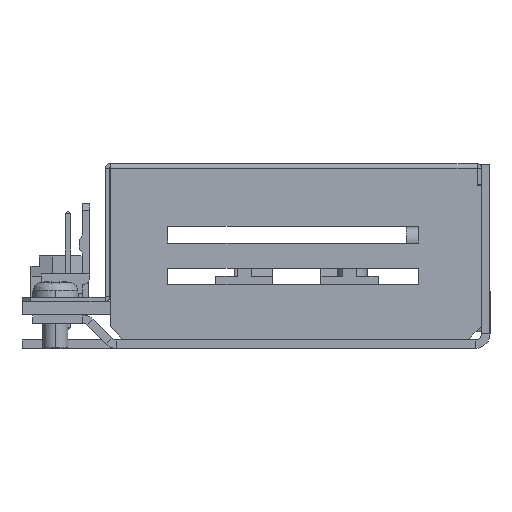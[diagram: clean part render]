
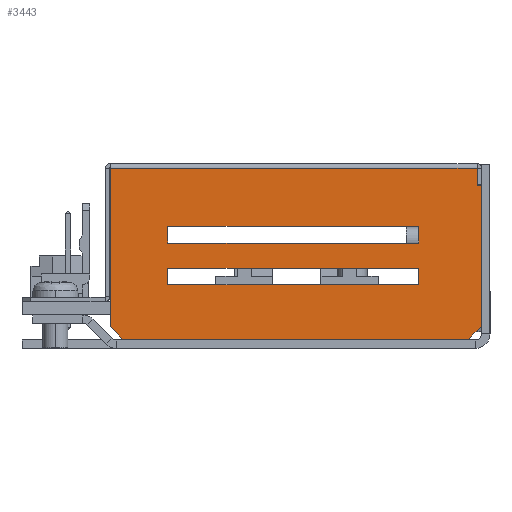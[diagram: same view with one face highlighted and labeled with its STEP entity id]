
A CAD part, left-side view. The second image highlights one B-rep face of the part: STEP entity #3443.
In plain terms, the highlighted planar face has unit normal (-1, 0, 0).
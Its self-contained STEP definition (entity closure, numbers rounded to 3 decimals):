
#217 = FACE_BOUND ( 'NONE', #21162, .T. ) ;
#218 = FACE_OUTER_BOUND ( 'NONE', #21498, .T. ) ;
#221 = FACE_BOUND ( 'NONE', #21458, .T. ) ;
#3443 = ADVANCED_FACE ( 'NONE', ( #217, #221, #218 ), #15162, .F. ) ;
#6703 = ORIENTED_EDGE ( 'NONE', *, *, #26382, .T. ) ;
#6750 = ORIENTED_EDGE ( 'NONE', *, *, #26294, .F. ) ;
#7088 = ORIENTED_EDGE ( 'NONE', *, *, #26590, .T. ) ;
#7243 = ORIENTED_EDGE ( 'NONE', *, *, #26050, .T. ) ;
#7385 = ORIENTED_EDGE ( 'NONE', *, *, #26375, .F. ) ;
#7477 = ORIENTED_EDGE ( 'NONE', *, *, #25978, .F. ) ;
#7611 = VERTEX_POINT ( 'NONE', #13526 ) ;
#7864 = VERTEX_POINT ( 'NONE', #13641 ) ;
#7872 = VERTEX_POINT ( 'NONE', #13640 ) ;
#7915 = VERTEX_POINT ( 'NONE', #11288 ) ;
#7987 = VERTEX_POINT ( 'NONE', #11323 ) ;
#8485 = VERTEX_POINT ( 'NONE', #11502 ) ;
#8513 = VERTEX_POINT ( 'NONE', #11521 ) ;
#8520 = VERTEX_POINT ( 'NONE', #11522 ) ;
#8626 = VERTEX_POINT ( 'NONE', #11590 ) ;
#8631 = VERTEX_POINT ( 'NONE', #11589 ) ;
#8667 = VERTEX_POINT ( 'NONE', #11616 ) ;
#8726 = VERTEX_POINT ( 'NONE', #11646 ) ;
#9016 = AXIS2_PLACEMENT_3D ( 'NONE', #15168, #15169, #15170 ) ;
#10550 = ORIENTED_EDGE ( 'NONE', *, *, #26243, .F. ) ;
#10591 = ORIENTED_EDGE ( 'NONE', *, *, #26349, .F. ) ;
#10667 = ORIENTED_EDGE ( 'NONE', *, *, #26401, .F. ) ;
#10707 = ORIENTED_EDGE ( 'NONE', *, *, #26030, .F. ) ;
#10723 = ORIENTED_EDGE ( 'NONE', *, *, #26091, .T. ) ;
#10791 = ORIENTED_EDGE ( 'NONE', *, *, #26404, .F. ) ;
#10798 = ORIENTED_EDGE ( 'NONE', *, *, #26544, .F. ) ;
#10819 = ORIENTED_EDGE ( 'NONE', *, *, #26383, .T. ) ;
#10820 = ORIENTED_EDGE ( 'NONE', *, *, #26574, .T. ) ;
#10826 = ORIENTED_EDGE ( 'NONE', *, *, #26519, .F. ) ;
#11288 = CARTESIAN_POINT ( 'NONE',  ( -34.942, -27.033, 1.6 ) ) ;
#11323 = CARTESIAN_POINT ( 'NONE',  ( -34.942, -34.033, 13.5 ) ) ;
#11502 = CARTESIAN_POINT ( 'NONE',  ( -34.942, -27.033, 8.6 ) ) ;
#11521 = CARTESIAN_POINT ( 'NONE',  ( -34.942, -33.033, -4.9 ) ) ;
#11522 = CARTESIAN_POINT ( 'NONE',  ( -34.942, -34.033, 15.55 ) ) ;
#11589 = CARTESIAN_POINT ( 'NONE',  ( -34.942, -34.533, 13.5 ) ) ;
#11590 = CARTESIAN_POINT ( 'NONE',  ( -34.942, 9.867, 15.55 ) ) ;
#11616 = CARTESIAN_POINT ( 'NONE',  ( -34.942, 8.367, -4.9 ) ) ;
#11646 = CARTESIAN_POINT ( 'NONE',  ( -34.942, 2.967, 6.6 ) ) ;
#12043 = LINE ( 'NONE', #24612, #12050 ) ;
#12050 = VECTOR ( 'NONE', #24623, 1000. ) ;
#12137 = LINE ( 'NONE', #20397, #12143 ) ;
#12143 = VECTOR ( 'NONE', #20394, 1000. ) ;
#12167 = LINE ( 'NONE', #20441, #12179 ) ;
#12179 = VECTOR ( 'NONE', #20432, 1000. ) ;
#12248 = LINE ( 'NONE', #20540, #12251 ) ;
#12251 = VECTOR ( 'NONE', #20541, 1000. ) ;
#12513 = LINE ( 'NONE', #21170, #12517 ) ;
#12517 = VECTOR ( 'NONE', #21183, 1000. ) ;
#12606 = LINE ( 'NONE', #21417, #12609 ) ;
#12609 = VECTOR ( 'NONE', #21420, 1000. ) ;
#12712 = LINE ( 'NONE', #21602, #12715 ) ;
#12715 = VECTOR ( 'NONE', #21604, 1000. ) ;
#12757 = LINE ( 'NONE', #21662, #12760 ) ;
#12760 = VECTOR ( 'NONE', #21663, 1000. ) ;
#12771 = LINE ( 'NONE', #21676, #12774 ) ;
#12773 = LINE ( 'NONE', #21678, #12776 ) ;
#12774 = VECTOR ( 'NONE', #21677, 1000. ) ;
#12776 = VECTOR ( 'NONE', #21679, 1000. ) ;
#12789 = LINE ( 'NONE', #24942, #12805 ) ;
#12805 = VECTOR ( 'NONE', #24966, 1000. ) ;
#12808 = LINE ( 'NONE', #24978, #12811 ) ;
#12811 = VECTOR ( 'NONE', #24980, 1000. ) ;
#13526 = CARTESIAN_POINT ( 'NONE',  ( -34.942, 2.967, 3.6 ) ) ;
#13640 = CARTESIAN_POINT ( 'NONE',  ( -34.942, -27.033, 3.6 ) ) ;
#13641 = CARTESIAN_POINT ( 'NONE',  ( -34.942, 2.967, 8.6 ) ) ;
#15162 = PLANE ( 'NONE',  #9016 ) ;
#15168 = CARTESIAN_POINT ( 'NONE',  ( -34.942, 9.867, 15.6 ) ) ;
#15169 = DIRECTION ( 'NONE',  ( 1., 0., 0. ) ) ;
#15170 = DIRECTION ( 'NONE',  ( 0., -1., 0. ) ) ;
#20394 = DIRECTION ( 'NONE',  ( 0., 0., 1. ) ) ;
#20397 = CARTESIAN_POINT ( 'NONE',  ( -34.942, -27.033, 1.6 ) ) ;
#20432 = DIRECTION ( 'NONE',  ( 0., 1., 0. ) ) ;
#20441 = CARTESIAN_POINT ( 'NONE',  ( -34.942, -34.533, 13.5 ) ) ;
#20540 = CARTESIAN_POINT ( 'NONE',  ( -34.942, 9.867, -4.9 ) ) ;
#20541 = DIRECTION ( 'NONE',  ( 0., -1., 0. ) ) ;
#21162 = EDGE_LOOP ( 'NONE', ( #10798, #10550, #10591, #7477 ) ) ;
#21170 = CARTESIAN_POINT ( 'NONE',  ( -34.942, -27.033, 6.6 ) ) ;
#21183 = DIRECTION ( 'NONE',  ( 0., 0., 1. ) ) ;
#21417 = CARTESIAN_POINT ( 'NONE',  ( -34.942, -34.033, 15.55 ) ) ;
#21420 = DIRECTION ( 'NONE',  ( 0., -1., 0. ) ) ;
#21458 = EDGE_LOOP ( 'NONE', ( #10791, #10707, #10826, #10667 ) ) ;
#21498 = EDGE_LOOP ( 'NONE', ( #10723, #10819, #7385, #7243, #10820, #6750, #7088, #6703 ) ) ;
#21602 = CARTESIAN_POINT ( 'NONE',  ( -34.942, -27.033, 6.6 ) ) ;
#21604 = DIRECTION ( 'NONE',  ( 0., -1., 0. ) ) ;
#21662 = CARTESIAN_POINT ( 'NONE',  ( -34.942, -34.533, 13.5 ) ) ;
#21663 = DIRECTION ( 'NONE',  ( 0., 0., -1. ) ) ;
#21676 = CARTESIAN_POINT ( 'NONE',  ( -34.942, 8.367, -4.9 ) ) ;
#21677 = DIRECTION ( 'NONE',  ( 0., -0.707, -0.707 ) ) ;
#21678 = CARTESIAN_POINT ( 'NONE',  ( -34.942, -34.533, -3.4 ) ) ;
#21679 = DIRECTION ( 'NONE',  ( 0., -0.707, 0.707 ) ) ;
#23141 = VERTEX_POINT ( 'NONE', #23864 ) ;
#23206 = VERTEX_POINT ( 'NONE', #23883 ) ;
#23318 = VERTEX_POINT ( 'NONE', #23943 ) ;
#23360 = VERTEX_POINT ( 'NONE', #23965 ) ;
#23864 = CARTESIAN_POINT ( 'NONE',  ( -34.942, 2.967, 1.6 ) ) ;
#23883 = CARTESIAN_POINT ( 'NONE',  ( -34.942, -34.533, -3.4 ) ) ;
#23943 = CARTESIAN_POINT ( 'NONE',  ( -34.942, 9.867, -3.4 ) ) ;
#23965 = CARTESIAN_POINT ( 'NONE',  ( -34.942, -27.033, 6.6 ) ) ;
#24612 = CARTESIAN_POINT ( 'NONE',  ( -34.942, 2.967, 6.6 ) ) ;
#24623 = DIRECTION ( 'NONE',  ( 0., 0., -1. ) ) ;
#24942 = CARTESIAN_POINT ( 'NONE',  ( -34.942, 2.967, 1.6 ) ) ;
#24966 = DIRECTION ( 'NONE',  ( 0., 0., -1. ) ) ;
#24978 = CARTESIAN_POINT ( 'NONE',  ( -34.942, -27.033, 3.6 ) ) ;
#24980 = DIRECTION ( 'NONE',  ( 0., 1., 0. ) ) ;
#25406 = CARTESIAN_POINT ( 'NONE',  ( -34.942, -27.033, 1.6 ) ) ;
#25408 = DIRECTION ( 'NONE',  ( 0., -1., 0. ) ) ;
#25501 = CARTESIAN_POINT ( 'NONE',  ( -34.942, -27.033, 8.6 ) ) ;
#25503 = DIRECTION ( 'NONE',  ( 0., 1., 0. ) ) ;
#25606 = CARTESIAN_POINT ( 'NONE',  ( -34.942, -34.033, 15.6 ) ) ;
#25607 = DIRECTION ( 'NONE',  ( 0., 0., 1. ) ) ;
#25648 = CARTESIAN_POINT ( 'NONE',  ( -34.942, 9.867, 15.6 ) ) ;
#25649 = DIRECTION ( 'NONE',  ( 0., 0., -1. ) ) ;
#25978 = EDGE_CURVE ( 'NONE', #7864, #8726, #12043, .T. ) ;
#26030 = EDGE_CURVE ( 'NONE', #7915, #7872, #12137, .T. ) ;
#26050 = EDGE_CURVE ( 'NONE', #8631, #7987, #12167, .T. ) ;
#26091 = EDGE_CURVE ( 'NONE', #8667, #8513, #12248, .T. ) ;
#26243 = EDGE_CURVE ( 'NONE', #23360, #8485, #12513, .T. ) ;
#26294 = EDGE_CURVE ( 'NONE', #8626, #8520, #12606, .T. ) ;
#26349 = EDGE_CURVE ( 'NONE', #8726, #23360, #12712, .T. ) ;
#26375 = EDGE_CURVE ( 'NONE', #8631, #23206, #12757, .T. ) ;
#26382 = EDGE_CURVE ( 'NONE', #23318, #8667, #12771, .T. ) ;
#26383 = EDGE_CURVE ( 'NONE', #8513, #23206, #12773, .T. ) ;
#26401 = EDGE_CURVE ( 'NONE', #7611, #23141, #12789, .T. ) ;
#26404 = EDGE_CURVE ( 'NONE', #7872, #7611, #12808, .T. ) ;
#26519 = EDGE_CURVE ( 'NONE', #23141, #7915, #27275, .T. ) ;
#26544 = EDGE_CURVE ( 'NONE', #8485, #7864, #27323, .T. ) ;
#26574 = EDGE_CURVE ( 'NONE', #7987, #8520, #27379, .T. ) ;
#26590 = EDGE_CURVE ( 'NONE', #8626, #23318, #27407, .T. ) ;
#27275 = LINE ( 'NONE', #25406, #27279 ) ;
#27279 = VECTOR ( 'NONE', #25408, 1000. ) ;
#27323 = LINE ( 'NONE', #25501, #27326 ) ;
#27326 = VECTOR ( 'NONE', #25503, 1000. ) ;
#27379 = LINE ( 'NONE', #25606, #27382 ) ;
#27382 = VECTOR ( 'NONE', #25607, 1000. ) ;
#27407 = LINE ( 'NONE', #25648, #27410 ) ;
#27410 = VECTOR ( 'NONE', #25649, 1000. ) ;
